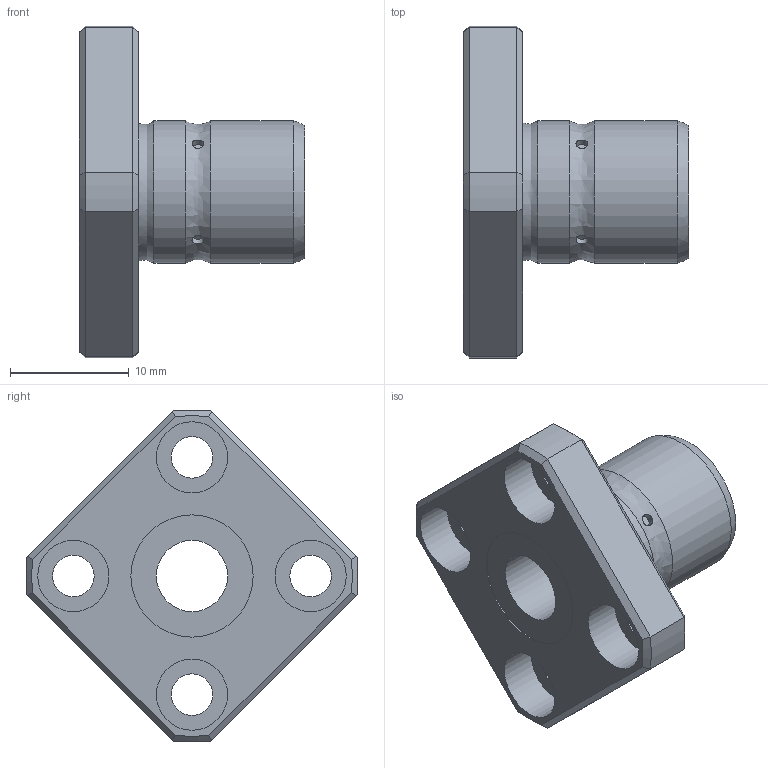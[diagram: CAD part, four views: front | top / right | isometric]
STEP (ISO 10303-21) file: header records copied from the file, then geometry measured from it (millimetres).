
FILE_DESCRIPTION((''),'2;1');
FILE_NAME('D:\製品 (図面)\カタログ用3D\リニアベアリング関連\STEP形式\LFK-OH\LFK6-OH.stp','2010-06-04T08:54:35',('Tsuchiya'),(''),'Autodesk Inventor 10','Autodesk Inventor 10','');
FILE_SCHEMA(('AUTOMOTIVE_DESIGN { 1 0 10303 214 1 1 1 1 }'));
Length unit declared in the file: millimetre
Products named in the file (1): LFK6-OH
Bounding box: 19 x 27.98 x 27.98 mm (x, y, z)
Volume: 2917.8 mm3; surface area: 2390.9 mm2
Topology: 1 solids, 1 shells, 57 faces, 116 edges, 72 vertices
Faces by surface type: cylinder 21, plane 21, cone 8, bspline 7
Full cylindrical faces by diameter (mm): 3.5 x4, 6 x5, 10.3 x2, 12 x2
Entity records: 1901 total; most frequent: CARTESIAN_POINT 802, DIRECTION 214, ORIENTED_EDGE 184, EDGE_LOOP 98, AXIS2_PLACEMENT_3D 95, EDGE_CURVE 92, VERTEX_POINT 68, FACE_OUTER_BOUND 57
